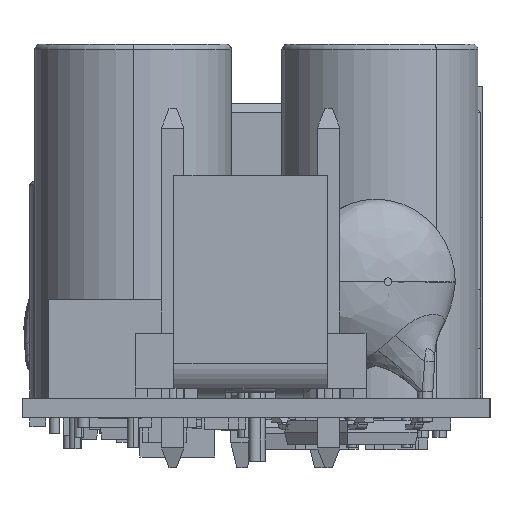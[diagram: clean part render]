
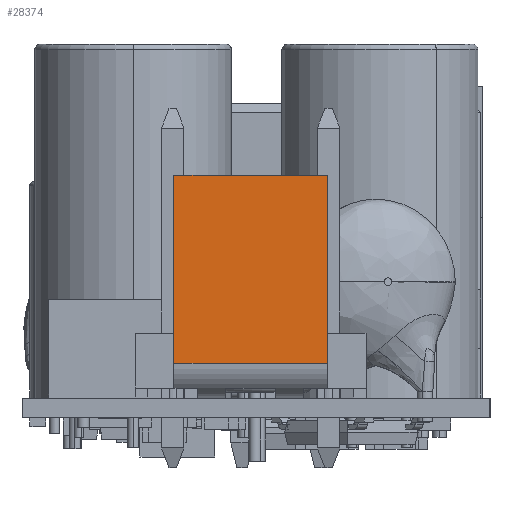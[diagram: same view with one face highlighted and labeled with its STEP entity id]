
A CAD part, left-side view. The second image highlights one B-rep face of the part: STEP entity #28374.
In plain terms, the highlighted planar face has unit normal (-1, 0, 0).
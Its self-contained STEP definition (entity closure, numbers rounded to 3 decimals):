
#1310 = VERTEX_POINT ( 'NONE', #47957 ) ;
#2435 = LINE ( 'NONE', #98758, #91632 ) ;
#2789 = ORIENTED_EDGE ( 'NONE', *, *, #113335, .F. ) ;
#4062 = EDGE_CURVE ( 'NONE', #1310, #120193, #2435, .T. ) ;
#5207 = DIRECTION ( 'NONE',  ( 0., -1., 0. ) ) ;
#10973 = VECTOR ( 'NONE', #80358, 1000. ) ;
#19407 = LINE ( 'NONE', #58491, #10973 ) ;
#21755 = CARTESIAN_POINT ( 'NONE',  ( 118.192, 40.24, -12.599 ) ) ;
#23423 = EDGE_LOOP ( 'NONE', ( #2789, #84550, #59188, #107328 ) ) ;
#28374 = ADVANCED_FACE ( 'NONE', ( #73615 ), #124234, .T. ) ;
#29843 = VECTOR ( 'NONE', #31199, 1000. ) ;
#31199 = DIRECTION ( 'NONE',  ( 0., 0., -1. ) ) ;
#32710 = EDGE_CURVE ( 'NONE', #126097, #122879, #83208, .T. ) ;
#38550 = EDGE_CURVE ( 'NONE', #120193, #122879, #19407, .T. ) ;
#47957 = CARTESIAN_POINT ( 'NONE',  ( 118.192, 48.04, -3.048 ) ) ;
#52594 = VECTOR ( 'NONE', #5207, 1000. ) ;
#58491 = CARTESIAN_POINT ( 'NONE',  ( 118.192, 48.04, -12.599 ) ) ;
#59188 = ORIENTED_EDGE ( 'NONE', *, *, #38550, .T. ) ;
#65013 = CARTESIAN_POINT ( 'NONE',  ( 118.192, 48.04, -3.048 ) ) ;
#66285 = LINE ( 'NONE', #65013, #52594 ) ;
#71088 = CARTESIAN_POINT ( 'NONE',  ( 118.192, 48.04, -12.599 ) ) ;
#73615 = FACE_OUTER_BOUND ( 'NONE', #23423, .T. ) ;
#79304 = CARTESIAN_POINT ( 'NONE',  ( 118.192, 40.24, -12.599 ) ) ;
#80358 = DIRECTION ( 'NONE',  ( 0., -1., 0. ) ) ;
#83208 = LINE ( 'NONE', #109446, #29843 ) ;
#84550 = ORIENTED_EDGE ( 'NONE', *, *, #4062, .T. ) ;
#86408 = DIRECTION ( 'NONE',  ( 0., 0., -1. ) ) ;
#87658 = DIRECTION ( 'NONE',  ( -1., 0., 0. ) ) ;
#91632 = VECTOR ( 'NONE', #91723, 1000. ) ;
#91723 = DIRECTION ( 'NONE',  ( 0., 0., -1. ) ) ;
#98758 = CARTESIAN_POINT ( 'NONE',  ( 118.192, 48.04, -3.048 ) ) ;
#107328 = ORIENTED_EDGE ( 'NONE', *, *, #32710, .F. ) ;
#109446 = CARTESIAN_POINT ( 'NONE',  ( 118.192, 40.24, -3.048 ) ) ;
#112486 = AXIS2_PLACEMENT_3D ( 'NONE', #79304, #87658, #86408 ) ;
#113335 = EDGE_CURVE ( 'NONE', #1310, #126097, #66285, .T. ) ;
#113416 = CARTESIAN_POINT ( 'NONE',  ( 118.192, 40.24, -3.048 ) ) ;
#120193 = VERTEX_POINT ( 'NONE', #71088 ) ;
#122879 = VERTEX_POINT ( 'NONE', #21755 ) ;
#124234 = PLANE ( 'NONE',  #112486 ) ;
#126097 = VERTEX_POINT ( 'NONE', #113416 ) ;
